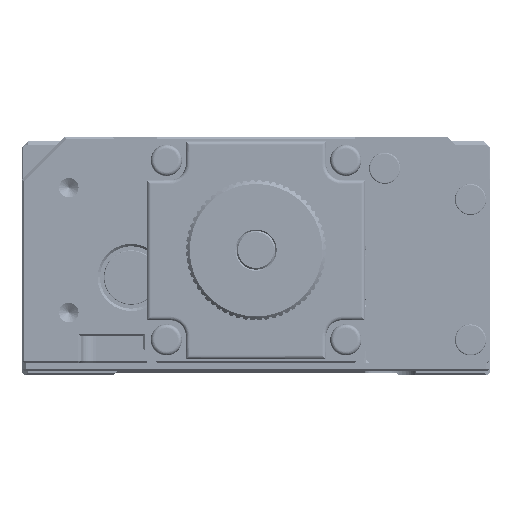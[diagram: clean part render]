
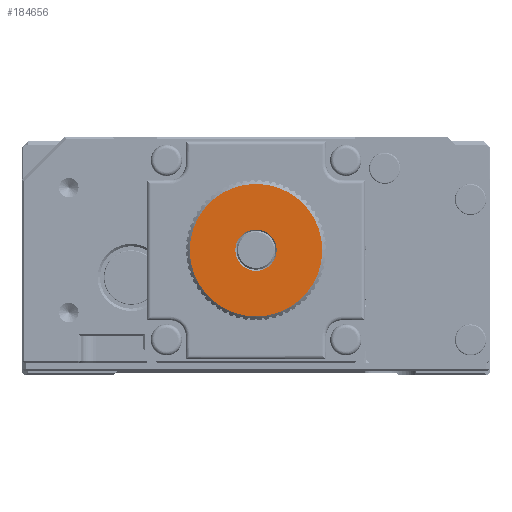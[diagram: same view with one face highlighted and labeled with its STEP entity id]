
A CAD part, front view. The second image highlights one B-rep face of the part: STEP entity #184656.
In plain terms, the highlighted planar face has unit normal (0, -1, 0).
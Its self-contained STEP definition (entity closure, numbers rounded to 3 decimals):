
#2526 = CIRCLE ( 'NONE', #36103, 8.5 ) ;
#5759 = AXIS2_PLACEMENT_3D ( 'NONE', #145160, #40713, #75387 ) ;
#10445 = CARTESIAN_POINT ( 'NONE',  ( -8.062, -229.12, -4.027 ) ) ;
#11547 = ORIENTED_EDGE ( 'NONE', *, *, #96194, .T. ) ;
#21053 = ORIENTED_EDGE ( 'NONE', *, *, #203546, .T. ) ;
#24480 = FACE_OUTER_BOUND ( 'NONE', #54885, .T. ) ;
#36103 = AXIS2_PLACEMENT_3D ( 'NONE', #61003, #40227, #111041 ) ;
#40227 = DIRECTION ( 'NONE',  ( 0., -1., 0. ) ) ;
#40713 = DIRECTION ( 'NONE',  ( 0., -1., 0. ) ) ;
#45874 = VERTEX_POINT ( 'NONE', #88380 ) ;
#49719 = VERTEX_POINT ( 'NONE', #147030 ) ;
#52720 = EDGE_CURVE ( 'NONE', #148854, #58906, #198658, .T. ) ;
#54885 = EDGE_LOOP ( 'NONE', ( #21053, #60935 ) ) ;
#58906 = VERTEX_POINT ( 'NONE', #185421 ) ;
#60935 = ORIENTED_EDGE ( 'NONE', *, *, #210992, .T. ) ;
#61003 = CARTESIAN_POINT ( 'NONE',  ( -8.062, -229.12, -4.027 ) ) ;
#75387 = DIRECTION ( 'NONE',  ( 1., 0., 0. ) ) ;
#86492 = DIRECTION ( 'NONE',  ( 0., 1., 0. ) ) ;
#88380 = CARTESIAN_POINT ( 'NONE',  ( 0.438, -229.12, -4.027 ) ) ;
#93488 = CIRCLE ( 'NONE', #189952, 2.65 ) ;
#96194 = EDGE_CURVE ( 'NONE', #58906, #148854, #93488, .T. ) ;
#111041 = DIRECTION ( 'NONE',  ( 1., 0., 0. ) ) ;
#113954 = FACE_BOUND ( 'NONE', #210498, .T. ) ;
#117271 = AXIS2_PLACEMENT_3D ( 'NONE', #209699, #86492, #141230 ) ;
#124524 = CARTESIAN_POINT ( 'NONE',  ( -8.062, -229.12, -4.027 ) ) ;
#137974 = AXIS2_PLACEMENT_3D ( 'NONE', #10445, #171738, #185707 ) ;
#141230 = DIRECTION ( 'NONE',  ( 1., 0., 0. ) ) ;
#141973 = DIRECTION ( 'NONE',  ( 0., 1., 0. ) ) ;
#145160 = CARTESIAN_POINT ( 'NONE',  ( -8.062, -229.12, -4.027 ) ) ;
#147030 = CARTESIAN_POINT ( 'NONE',  ( -16.562, -229.12, -4.027 ) ) ;
#148854 = VERTEX_POINT ( 'NONE', #214227 ) ;
#165119 = CIRCLE ( 'NONE', #5759, 8.5 ) ;
#171738 = DIRECTION ( 'NONE',  ( 0., -1., 0. ) ) ;
#175476 = DIRECTION ( 'NONE',  ( 1., 0., 0. ) ) ;
#184656 = ADVANCED_FACE ( 'NONE', ( #113954, #24480 ), #217193, .T. ) ;
#185421 = CARTESIAN_POINT ( 'NONE',  ( -10.712, -229.12, -4.027 ) ) ;
#185707 = DIRECTION ( 'NONE',  ( 1., 0., 0. ) ) ;
#189952 = AXIS2_PLACEMENT_3D ( 'NONE', #124524, #141973, #175476 ) ;
#198658 = CIRCLE ( 'NONE', #117271, 2.65 ) ;
#203546 = EDGE_CURVE ( 'NONE', #49719, #45874, #165119, .T. ) ;
#209699 = CARTESIAN_POINT ( 'NONE',  ( -8.062, -229.12, -4.027 ) ) ;
#210498 = EDGE_LOOP ( 'NONE', ( #215975, #11547 ) ) ;
#210992 = EDGE_CURVE ( 'NONE', #45874, #49719, #2526, .T. ) ;
#214227 = CARTESIAN_POINT ( 'NONE',  ( -5.412, -229.12, -4.027 ) ) ;
#215975 = ORIENTED_EDGE ( 'NONE', *, *, #52720, .T. ) ;
#217193 = PLANE ( 'NONE',  #137974 ) ;
